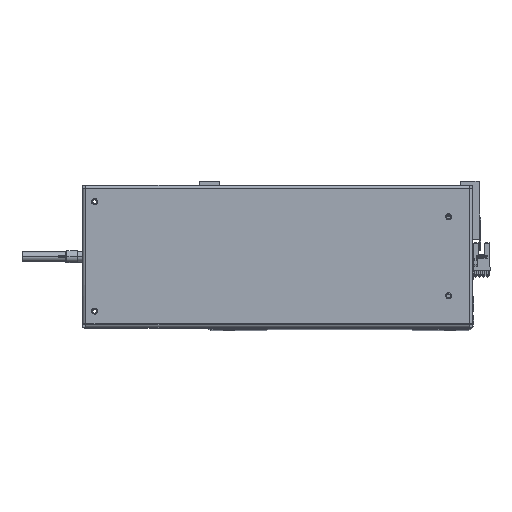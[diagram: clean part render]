
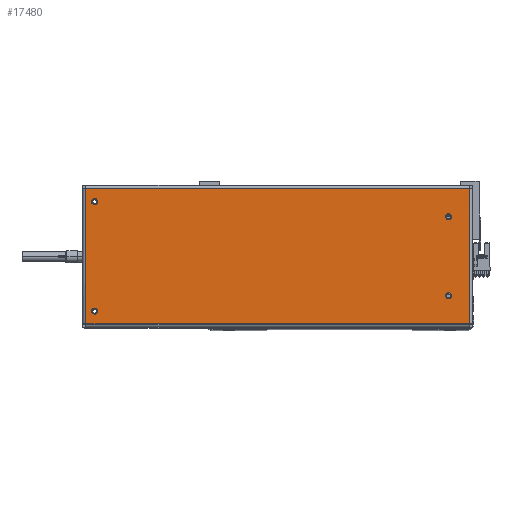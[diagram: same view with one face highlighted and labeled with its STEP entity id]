
A CAD part, top view. The second image highlights one B-rep face of the part: STEP entity #17480.
In plain terms, the highlighted planar face has unit normal (0, 0, 1).
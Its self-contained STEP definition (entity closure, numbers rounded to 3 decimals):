
#55 = CIRCLE ( 'NONE', #7434, 2.5 ) ;
#615 = VECTOR ( 'NONE', #36230, 1000. ) ;
#988 = CARTESIAN_POINT ( 'NONE',  ( -140.5, -32.5, 0. ) ) ;
#1216 = DIRECTION ( 'NONE',  ( 0., 0., 1. ) ) ;
#1341 = DIRECTION ( 'NONE',  ( 1., 0., 0. ) ) ;
#1445 = CARTESIAN_POINT ( 'NONE',  ( -140.5, -32.5, 0. ) ) ;
#1621 = CIRCLE ( 'NONE', #19204, 2.5 ) ;
#1682 = CARTESIAN_POINT ( 'NONE',  ( 150.5, -45., 0. ) ) ;
#2890 = VERTEX_POINT ( 'NONE', #34318 ) ;
#2927 = CARTESIAN_POINT ( 'NONE',  ( -140.5, 32.5, 0. ) ) ;
#3053 = DIRECTION ( 'NONE',  ( 0., 0., 1. ) ) ;
#3156 = VERTEX_POINT ( 'NONE', #37947 ) ;
#3188 = CARTESIAN_POINT ( 'NONE',  ( 157.7, 58.5, 0. ) ) ;
#3856 = FACE_OUTER_BOUND ( 'NONE', #26818, .T. ) ;
#3970 = DIRECTION ( 'NONE',  ( 0., 0., 1. ) ) ;
#4408 = DIRECTION ( 'NONE',  ( 1., 0., 0. ) ) ;
#4793 = VECTOR ( 'NONE', #34060, 1000. ) ;
#4883 = EDGE_LOOP ( 'NONE', ( #24272, #35992 ) ) ;
#4926 = ORIENTED_EDGE ( 'NONE', *, *, #27997, .T. ) ;
#6003 = EDGE_CURVE ( 'NONE', #17456, #28183, #55, .T. ) ;
#6096 = CARTESIAN_POINT ( 'NONE',  ( -157.6, -55.6, 0. ) ) ;
#6631 = CIRCLE ( 'NONE', #20691, 2.5 ) ;
#6793 = EDGE_LOOP ( 'NONE', ( #19152, #19316 ) ) ;
#7063 = VECTOR ( 'NONE', #33730, 1000. ) ;
#7434 = AXIS2_PLACEMENT_3D ( 'NONE', #2927, #3053, #32605 ) ;
#7435 = CARTESIAN_POINT ( 'NONE',  ( -143., 32.5, 0. ) ) ;
#7591 = ORIENTED_EDGE ( 'NONE', *, *, #12637, .F. ) ;
#7656 = EDGE_CURVE ( 'NONE', #32590, #20973, #36694, .T. ) ;
#8197 = CIRCLE ( 'NONE', #15981, 2.5 ) ;
#8998 = ORIENTED_EDGE ( 'NONE', *, *, #6003, .F. ) ;
#9669 = CARTESIAN_POINT ( 'NONE',  ( -157.6, 55.6, 0. ) ) ;
#10611 = VERTEX_POINT ( 'NONE', #11198 ) ;
#10872 = EDGE_CURVE ( 'NONE', #20973, #16592, #16411, .T. ) ;
#11051 = EDGE_LOOP ( 'NONE', ( #29870, #32117 ) ) ;
#11198 = CARTESIAN_POINT ( 'NONE',  ( -143., -32.5, 0. ) ) ;
#12305 = EDGE_CURVE ( 'NONE', #18655, #3156, #17259, .T. ) ;
#12446 = DIRECTION ( 'NONE',  ( -1., 0., 0. ) ) ;
#12637 = EDGE_CURVE ( 'NONE', #28183, #17456, #23232, .T. ) ;
#12766 = VECTOR ( 'NONE', #26758, 1000. ) ;
#13644 = VERTEX_POINT ( 'NONE', #6096 ) ;
#14072 = LINE ( 'NONE', #9669, #7063 ) ;
#14166 = FACE_BOUND ( 'NONE', #36351, .T. ) ;
#15981 = AXIS2_PLACEMENT_3D ( 'NONE', #27362, #24394, #36148 ) ;
#16336 = AXIS2_PLACEMENT_3D ( 'NONE', #34118, #19403, #19915 ) ;
#16411 = LINE ( 'NONE', #36602, #615 ) ;
#16516 = CARTESIAN_POINT ( 'NONE',  ( 148., 45., 0. ) ) ;
#16550 = EDGE_CURVE ( 'NONE', #10611, #36206, #1621, .T. ) ;
#16592 = VERTEX_POINT ( 'NONE', #28200 ) ;
#17259 = CIRCLE ( 'NONE', #24733, 2.5 ) ;
#17393 = FACE_BOUND ( 'NONE', #4883, .T. ) ;
#17456 = VERTEX_POINT ( 'NONE', #18151 ) ;
#17480 = ADVANCED_FACE ( 'NONE', ( #33101, #14166, #36756, #17393, #3856 ), #32994, .F. ) ;
#18151 = CARTESIAN_POINT ( 'NONE',  ( -138., 32.5, 0. ) ) ;
#18655 = VERTEX_POINT ( 'NONE', #29970 ) ;
#18881 = DIRECTION ( 'NONE',  ( 1., 0., 0. ) ) ;
#19152 = ORIENTED_EDGE ( 'NONE', *, *, #35589, .F. ) ;
#19204 = AXIS2_PLACEMENT_3D ( 'NONE', #988, #3970, #22267 ) ;
#19316 = ORIENTED_EDGE ( 'NONE', *, *, #16550, .F. ) ;
#19345 = CARTESIAN_POINT ( 'NONE',  ( 157.6, -55.6, 0. ) ) ;
#19403 = DIRECTION ( 'NONE',  ( 0., 0., 1. ) ) ;
#19915 = DIRECTION ( 'NONE',  ( 1., 0., 0. ) ) ;
#19937 = DIRECTION ( 'NONE',  ( 0., 0., 1. ) ) ;
#20691 = AXIS2_PLACEMENT_3D ( 'NONE', #1445, #1216, #1341 ) ;
#20973 = VERTEX_POINT ( 'NONE', #28196 ) ;
#21578 = DIRECTION ( 'NONE',  ( 0., 0., 1. ) ) ;
#21979 = AXIS2_PLACEMENT_3D ( 'NONE', #22085, #21578, #18881 ) ;
#22085 = CARTESIAN_POINT ( 'NONE',  ( 150.5, 45., 0. ) ) ;
#22267 = DIRECTION ( 'NONE',  ( 1., 0., 0. ) ) ;
#22580 = CARTESIAN_POINT ( 'NONE',  ( 157.6, -55.6, 0. ) ) ;
#23037 = DIRECTION ( 'NONE',  ( 1., 0., 0. ) ) ;
#23161 = CARTESIAN_POINT ( 'NONE',  ( 150.5, -45., 0. ) ) ;
#23232 = CIRCLE ( 'NONE', #16336, 2.5 ) ;
#24272 = ORIENTED_EDGE ( 'NONE', *, *, #27991, .F. ) ;
#24394 = DIRECTION ( 'NONE',  ( 0., 0., 1. ) ) ;
#24444 = DIRECTION ( 'NONE',  ( 0., 0., -1. ) ) ;
#24733 = AXIS2_PLACEMENT_3D ( 'NONE', #23161, #19937, #23037 ) ;
#24892 = DIRECTION ( 'NONE',  ( 0., 0., 1. ) ) ;
#25302 = EDGE_CURVE ( 'NONE', #3156, #18655, #30962, .T. ) ;
#25370 = AXIS2_PLACEMENT_3D ( 'NONE', #1682, #24892, #4408 ) ;
#26428 = EDGE_CURVE ( 'NONE', #34569, #2890, #8197, .T. ) ;
#26695 = CARTESIAN_POINT ( 'NONE',  ( -138., -32.5, 0. ) ) ;
#26758 = DIRECTION ( 'NONE',  ( 1., 0., 0. ) ) ;
#26818 = EDGE_LOOP ( 'NONE', ( #4926, #31335, #27174, #32681 ) ) ;
#26869 = CARTESIAN_POINT ( 'NONE',  ( -157.7, -55.6, 0. ) ) ;
#26900 = AXIS2_PLACEMENT_3D ( 'NONE', #3188, #24444, #12446 ) ;
#27174 = ORIENTED_EDGE ( 'NONE', *, *, #7656, .T. ) ;
#27362 = CARTESIAN_POINT ( 'NONE',  ( 150.5, 45., 0. ) ) ;
#27991 = EDGE_CURVE ( 'NONE', #2890, #34569, #30215, .T. ) ;
#27997 = EDGE_CURVE ( 'NONE', #16592, #13644, #14072, .T. ) ;
#28183 = VERTEX_POINT ( 'NONE', #7435 ) ;
#28196 = CARTESIAN_POINT ( 'NONE',  ( 157.6, 55.6, 0. ) ) ;
#28200 = CARTESIAN_POINT ( 'NONE',  ( -157.6, 55.6, 0. ) ) ;
#29870 = ORIENTED_EDGE ( 'NONE', *, *, #12305, .F. ) ;
#29970 = CARTESIAN_POINT ( 'NONE',  ( 153., -45., 0. ) ) ;
#30215 = CIRCLE ( 'NONE', #21979, 2.5 ) ;
#30962 = CIRCLE ( 'NONE', #25370, 2.5 ) ;
#31335 = ORIENTED_EDGE ( 'NONE', *, *, #33362, .T. ) ;
#32117 = ORIENTED_EDGE ( 'NONE', *, *, #25302, .F. ) ;
#32590 = VERTEX_POINT ( 'NONE', #22580 ) ;
#32605 = DIRECTION ( 'NONE',  ( 1., 0., 0. ) ) ;
#32681 = ORIENTED_EDGE ( 'NONE', *, *, #10872, .T. ) ;
#32994 = PLANE ( 'NONE',  #26900 ) ;
#33101 = FACE_BOUND ( 'NONE', #6793, .T. ) ;
#33362 = EDGE_CURVE ( 'NONE', #13644, #32590, #33572, .T. ) ;
#33572 = LINE ( 'NONE', #26869, #12766 ) ;
#33730 = DIRECTION ( 'NONE',  ( 0., -1., 0. ) ) ;
#34060 = DIRECTION ( 'NONE',  ( 0., 1., 0. ) ) ;
#34118 = CARTESIAN_POINT ( 'NONE',  ( -140.5, 32.5, 0. ) ) ;
#34318 = CARTESIAN_POINT ( 'NONE',  ( 153., 45., 0. ) ) ;
#34569 = VERTEX_POINT ( 'NONE', #16516 ) ;
#35589 = EDGE_CURVE ( 'NONE', #36206, #10611, #6631, .T. ) ;
#35992 = ORIENTED_EDGE ( 'NONE', *, *, #26428, .F. ) ;
#36148 = DIRECTION ( 'NONE',  ( 1., 0., 0. ) ) ;
#36206 = VERTEX_POINT ( 'NONE', #26695 ) ;
#36230 = DIRECTION ( 'NONE',  ( -1., 0., 0. ) ) ;
#36351 = EDGE_LOOP ( 'NONE', ( #8998, #7591 ) ) ;
#36602 = CARTESIAN_POINT ( 'NONE',  ( 157.7, 55.6, 0. ) ) ;
#36694 = LINE ( 'NONE', #19345, #4793 ) ;
#36756 = FACE_BOUND ( 'NONE', #11051, .T. ) ;
#37947 = CARTESIAN_POINT ( 'NONE',  ( 148., -45., 0. ) ) ;
